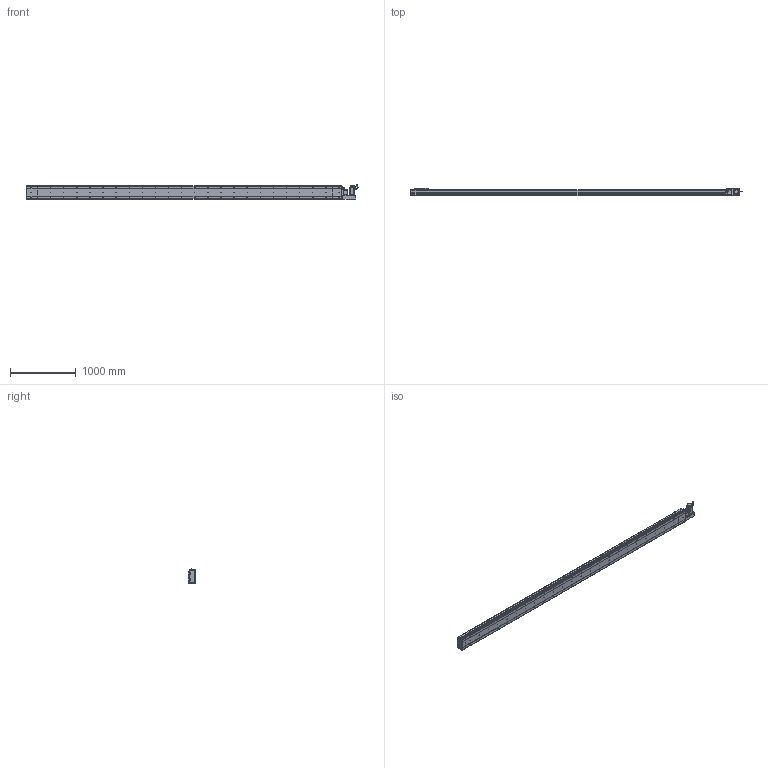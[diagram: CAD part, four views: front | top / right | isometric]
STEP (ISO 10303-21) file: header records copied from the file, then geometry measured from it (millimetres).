
FILE_DESCRIPTION (( 'STEP AP214' ), '1' );
FILE_NAME ('D20 CBH RH S4500.STEP', '2010-06-30T11:39:30', ( 'Conseil Régional Haute-Normandie' ), ( 'Conseil Régional Haute-Normandie' ), 'SwSTEP 2.0', 'SolidWorks 2010', '' );
FILE_SCHEMA (( 'AUTOMOTIVE_DESIGN' ));
Length unit declared in the file: millimetre
Products named in the file (31): vis M5 L30_Default; Head D20 RH_Default; D20 CBH RH S4500; Corp Tail D20 RH_Default; Couvercle RH_Default; Rondelle Cache D20 RH_Default; Plaque de Bout Head D20 RH_Default; Plaque De Serrage D20 RH_Default; Support moteur RH_Default; avant 90BLDC125A-640; Moteur motionking 90BLDC125A-640; Conecteur_Default; corps 90BLDC125A-640; ecrou_Default; codeur 90BLDC125-640; Conecteur2_Default; Chariot D20_Default; Support Chariot D20_Default; Corp D20 S4500_Default; vis M5 L47_Default; Corp S4500_Default; Glissiere_Default; Cache Support Moteur RH_Default; vis M5 L15_Default; Corp Tail D20+100_Default; Couvercle S4500_Default; Tail D20+100_Default; Plaque De Serrage D20_Default; Couvercle_Default; Plaque de Bout Tail D20_Default
Assembly tree (68 placements, depth 4):
  D20 CBH RH S4500
    Head D20 RH_Default
      Corp Tail D20 RH_Default
      vis M5 L30_Default  x4
      vis M5 L47_Default  x4
      vis M5 L15_Default  x14
      Moteur motionking 90BLDC125A-640
        Conecteur2_Default
        Conecteur_Default
        codeur 90BLDC125-640
        avant 90BLDC125A-640
        corps 90BLDC125A-640
      Support moteur RH_Default
      ecrou_Default  x4
      Cache Support Moteur RH_Default
      Rondelle Cache D20 RH_Default  x3
      Couvercle RH_Default
      Plaque De Serrage D20 RH_Default
      Plaque de Bout Head D20 RH_Default
    Tail D20+100_Default
      vis M5 L15_Default  x6
      Corp Tail D20+100_Default
      Plaque de Bout Tail D20_Default
      Plaque De Serrage D20_Default
      Couvercle_Default
    Chariot D20_Default
      Chariot D20_Default
      Support Chariot D20_Default
      vis M5 L15_Default  x8
      Glissiere_Default
    Corp D20 S4500_Default
      Couvercle S4500_Default
      Corp S4500_Default
Bounding box: 5065.45 x 119.5 x 229.7 mm (x, y, z)
Volume: 32717553.7 mm3; surface area: 6212897.2 mm2
Topology: 105 solids, 105 shells, 3937 faces, 9750 edges, 6334 vertices
Faces by surface type: plane 2170, bspline 806, cylinder 790, torus 95, cone 72, sphere 4
Entity records: 162710 total; most frequent: CARTESIAN_POINT 82853, ORIENTED_EDGE 15768, DIRECTION 12262, EDGE_CURVE 7884, VERTEX_POINT 5218, VECTOR 5032, LINE 5032, AXIS2_PLACEMENT_3D 3615
